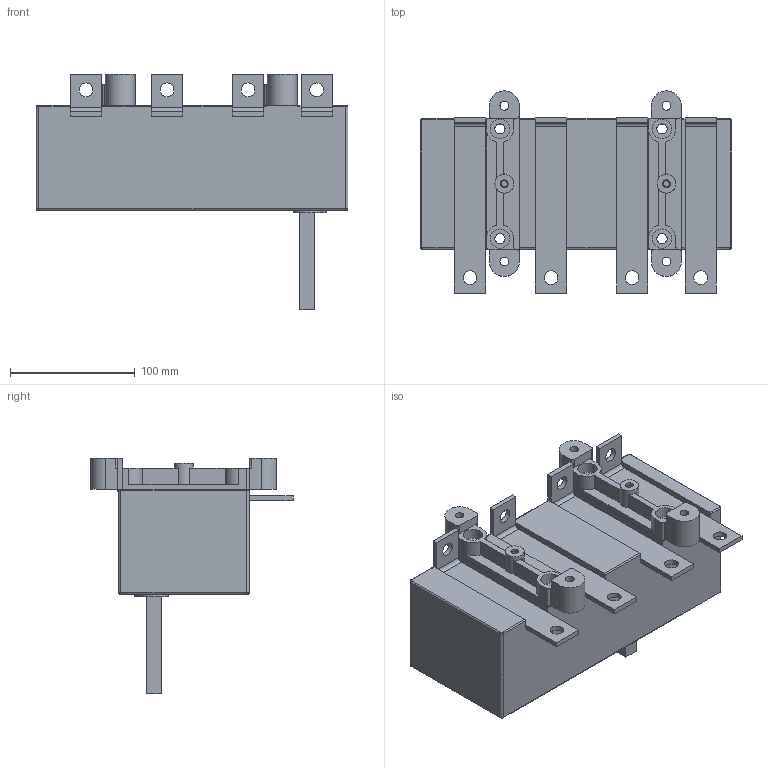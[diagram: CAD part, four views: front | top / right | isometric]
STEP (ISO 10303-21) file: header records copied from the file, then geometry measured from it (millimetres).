
FILE_DESCRIPTION(/* description */ (''),/* implementation_level */ '2;1');
FILE_NAME(/* name */ 'RA400 P3 NB.stp',/* time_stamp */ '2021-08-18T14:18:07+02:00',/* author */ (''),/* organization */ (''),/* preprocessor_version */ 'ST-DEVELOPER v18.1',/* originating_system */ 'SIEMENS PLM Software NX 1965',/* authorisation */ '');
FILE_SCHEMA (('AUTOMOTIVE_DESIGN { 1 0 10303 214 3 1 1 1 }'));
Length unit declared in the file: millimetre
Products named in the file (1): RA400 P3 NB
Bounding box: 250 x 162.29 x 189 mm (x, y, z)
Volume: 2249044.7 mm3; surface area: 167525.5 mm2
Topology: 1 solids, 1 shells, 240 faces, 630 edges, 409 vertices
Faces by surface type: plane 136, cylinder 96, bspline 8
Full cylindrical faces by diameter (mm): 4.8 x2, 6.2 x2, 7 x4, 8.2 x4, 11 x8, 14 x4, 15 x2, 15.5 x4
Entity records: 7428 total; most frequent: CARTESIAN_POINT 1392, DIRECTION 1274, ORIENTED_EDGE 1192, EDGE_CURVE 596, AXIS2_PLACEMENT_3D 447, VERTEX_POINT 402, LINE 380, VECTOR 380
